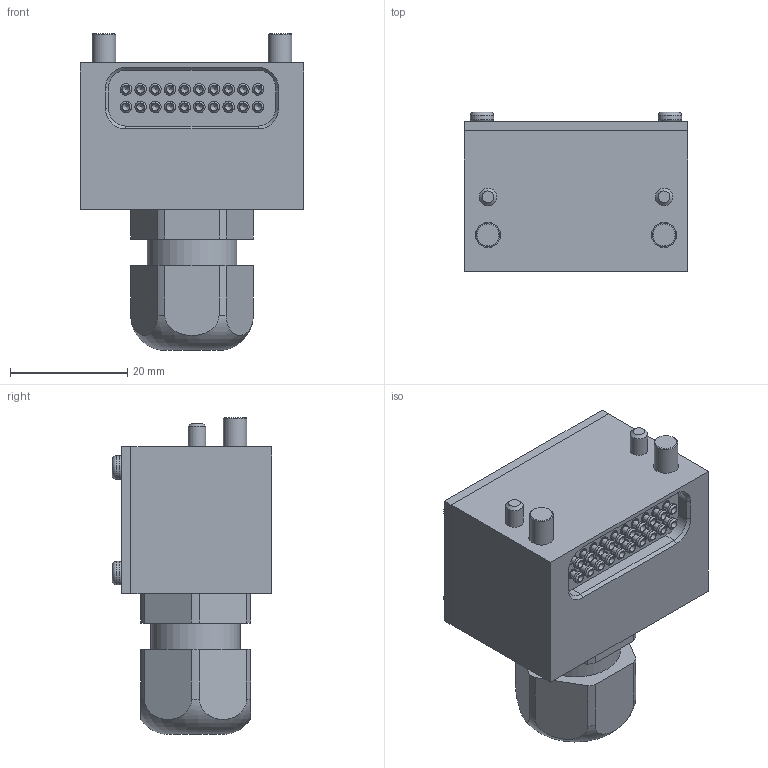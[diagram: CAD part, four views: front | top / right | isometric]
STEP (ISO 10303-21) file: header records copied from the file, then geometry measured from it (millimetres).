
FILE_DESCRIPTION (( 'STEP AP214' ), '1' );
FILE_NAME ('1507-C57A REV03.STEP', '2019-02-26T15:57:08', ( 'Any Employee' ), ( 'Applied Robotics Inc.' ), 'SwSTEP 2.0', 'SolidWorks 2019', '' );
FILE_SCHEMA (( 'AUTOMOTIVE_DESIGN' ));
Length unit declared in the file: millimetre
Products named in the file (9): 0909-P38N; 95505-P1087; 1103-P65N; 1602-C68N; 48021; 96504-P1022; 1507-C59N; 1507-C57A REV03; 49975_99397A068
Assembly tree (51 placements, depth 2):
  1507-C57A REV03
    1507-C59N
    1602-C68N
    0909-P38N
    96504-P1022  x20
    95505-P1087  x20
    48021  x2
    49975_99397A068  x4
    1103-P65N  x2
Bounding box: 38 x 27.2 x 53.97 mm (x, y, z)
Volume: 21453.5 mm3; surface area: 17668.1 mm2
Topology: 51 solids, 51 shells, 908 faces, 2007 edges, 1328 vertices
Faces by surface type: cylinder 409, plane 310, cone 117, torus 51, bspline 21
Full cylindrical faces by diameter (mm): 1.17 x20, 1.37 x20, 1.39 x20, 1.4 x4, 1.43 x20, 1.67 x20, 1.73 x20, 1.79 x20, 1.96 x20, 2.5 x4, 2.987 x2, 3 x2, 4 x6, 4.3 x2, 7 x2, 7.5 x2, 10 x1, 13.5 x1, 14 x1, 15.2 x2
Entity records: 10467 total; most frequent: CARTESIAN_POINT 3941, DIRECTION 1222, ORIENTED_EDGE 1134, EDGE_CURVE 567, AXIS2_PLACEMENT_3D 486, VERTEX_POINT 410, EDGE_LOOP 395, FACE_OUTER_BOUND 311
